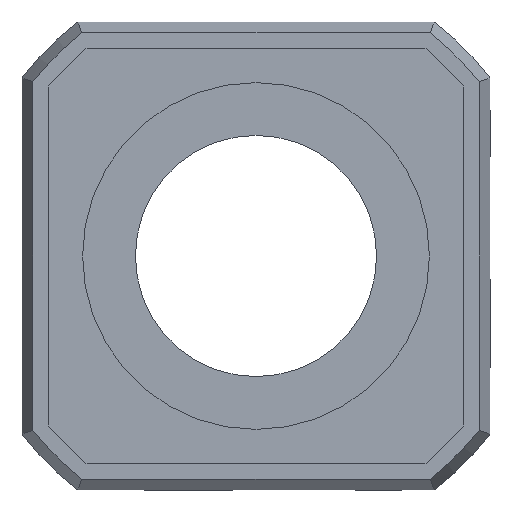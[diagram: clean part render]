
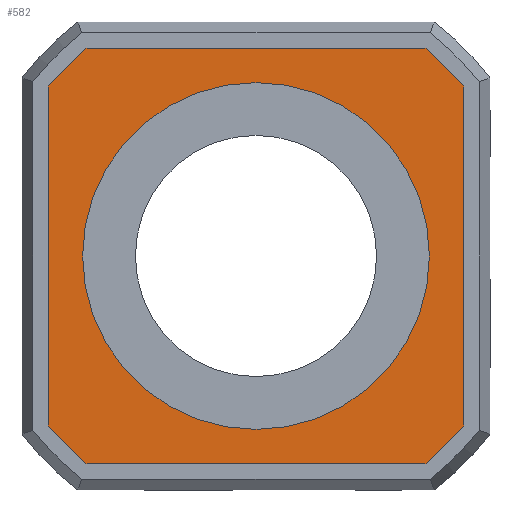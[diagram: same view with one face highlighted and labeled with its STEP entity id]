
A CAD part, front view. The second image highlights one B-rep face of the part: STEP entity #582.
In plain terms, the highlighted planar face has unit normal (0, -1, 0).
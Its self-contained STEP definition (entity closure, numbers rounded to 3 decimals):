
#33=FACE_BOUND('',#127,.T.);
#46=PLANE('',#669);
#88=FACE_OUTER_BOUND('',#126,.T.);
#126=EDGE_LOOP('',(#500,#501,#502,#503,#504,#505,#506,#507));
#127=EDGE_LOOP('',(#508));
#147=LINE('',#917,#183);
#155=LINE('',#953,#191);
#161=LINE('',#981,#197);
#164=LINE('',#994,#200);
#183=VECTOR('',#736,10.);
#191=VECTOR('',#762,10.);
#197=VECTOR('',#784,10.);
#200=VECTOR('',#803,10.);
#216=CIRCLE('',#625,5.5);
#219=CIRCLE('',#631,8.886);
#224=CIRCLE('',#641,8.886);
#228=CIRCLE('',#649,8.886);
#232=CIRCLE('',#658,8.886);
#248=VERTEX_POINT('',#878);
#253=VERTEX_POINT('',#896);
#255=VERTEX_POINT('',#899);
#260=VERTEX_POINT('',#915);
#266=VERTEX_POINT('',#937);
#270=VERTEX_POINT('',#951);
#274=VERTEX_POINT('',#965);
#278=VERTEX_POINT('',#979);
#280=VERTEX_POINT('',#990);
#304=EDGE_CURVE('',#248,#248,#216,.T.);
#310=EDGE_CURVE('',#255,#253,#219,.T.);
#318=EDGE_CURVE('',#253,#260,#147,.T.);
#327=EDGE_CURVE('',#260,#266,#224,.T.);
#333=EDGE_CURVE('',#266,#270,#155,.T.);
#339=EDGE_CURVE('',#270,#274,#228,.T.);
#345=EDGE_CURVE('',#274,#278,#161,.T.);
#351=EDGE_CURVE('',#278,#280,#232,.T.);
#352=EDGE_CURVE('',#280,#255,#164,.T.);
#500=ORIENTED_EDGE('',*,*,#310,.T.);
#501=ORIENTED_EDGE('',*,*,#318,.T.);
#502=ORIENTED_EDGE('',*,*,#327,.T.);
#503=ORIENTED_EDGE('',*,*,#333,.T.);
#504=ORIENTED_EDGE('',*,*,#339,.T.);
#505=ORIENTED_EDGE('',*,*,#345,.T.);
#506=ORIENTED_EDGE('',*,*,#351,.T.);
#507=ORIENTED_EDGE('',*,*,#352,.T.);
#508=ORIENTED_EDGE('',*,*,#304,.T.);
#582=ADVANCED_FACE('',(#88,#33),#46,.T.);
#625=AXIS2_PLACEMENT_3D('',#880,#710,#711);
#631=AXIS2_PLACEMENT_3D('',#900,#723,#724);
#641=AXIS2_PLACEMENT_3D('',#939,#752,#753);
#649=AXIS2_PLACEMENT_3D('',#967,#774,#775);
#658=AXIS2_PLACEMENT_3D('',#992,#799,#800);
#669=AXIS2_PLACEMENT_3D('',#1027,#830,#831);
#710=DIRECTION('center_axis',(0.,1.,0.));
#711=DIRECTION('ref_axis',(-1.,0.,0.));
#723=DIRECTION('center_axis',(0.,-1.,0.));
#724=DIRECTION('ref_axis',(0.796,0.,0.605));
#736=DIRECTION('',(1.,0.,0.));
#752=DIRECTION('center_axis',(0.,-1.,0.));
#753=DIRECTION('ref_axis',(-0.605,0.,0.796));
#762=DIRECTION('',(0.,0.,1.));
#774=DIRECTION('center_axis',(0.,-1.,0.));
#775=DIRECTION('ref_axis',(-1.,0.,0.));
#784=DIRECTION('',(-1.,0.,0.));
#799=DIRECTION('center_axis',(0.,-1.,0.));
#800=DIRECTION('ref_axis',(0.605,0.,-0.796));
#803=DIRECTION('',(0.,0.,-1.));
#830=DIRECTION('center_axis',(0.,-1.,0.));
#831=DIRECTION('ref_axis',(0.,0.,-1.));
#878=CARTESIAN_POINT('',(5.5,-5.5,0.));
#880=CARTESIAN_POINT('Origin',(0.,-5.5,0.));
#896=CARTESIAN_POINT('',(-5.604,-5.5,-6.896));
#899=CARTESIAN_POINT('',(-6.896,-5.5,-5.604));
#900=CARTESIAN_POINT('Origin',(0.,-5.5,0.));
#915=CARTESIAN_POINT('',(5.604,-5.5,-6.896));
#917=CARTESIAN_POINT('',(2.951,-5.5,-6.896));
#937=CARTESIAN_POINT('',(6.896,-5.5,-5.604));
#939=CARTESIAN_POINT('Origin',(0.,-5.5,0.));
#951=CARTESIAN_POINT('',(6.896,-5.5,5.604));
#953=CARTESIAN_POINT('',(6.896,-5.5,2.951));
#965=CARTESIAN_POINT('',(5.604,-5.5,6.896));
#967=CARTESIAN_POINT('Origin',(0.,-5.5,0.));
#979=CARTESIAN_POINT('',(-5.604,-5.5,6.896));
#981=CARTESIAN_POINT('',(-2.951,-5.5,6.896));
#990=CARTESIAN_POINT('',(-6.896,-5.5,5.604));
#992=CARTESIAN_POINT('Origin',(0.,-5.5,0.));
#994=CARTESIAN_POINT('',(-6.896,-5.5,-2.951));
#1027=CARTESIAN_POINT('Origin',(0.,-5.5,0.));
